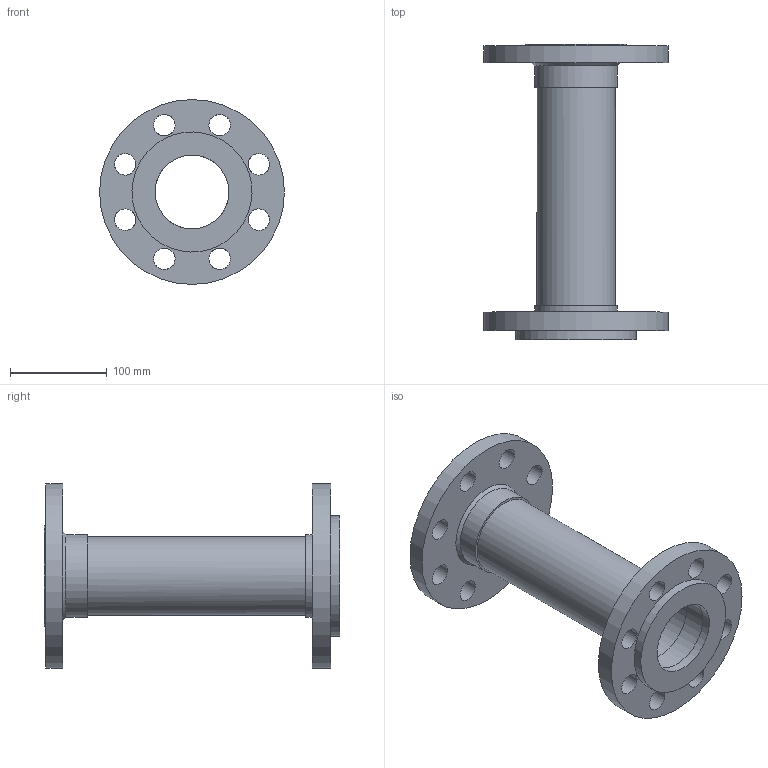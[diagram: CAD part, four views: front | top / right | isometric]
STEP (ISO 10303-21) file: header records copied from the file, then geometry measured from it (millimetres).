
FILE_DESCRIPTION(/* description */ (''),/* implementation_level */ '2;1');
FILE_NAME(/* name */ 'C:\001_Work\Designs\FFL2B-300\FFL2B-300-2.5x12.stp',/* time_stamp */ '2016-06-14T10:11:57-04:00',/* author */ ('rramoutar'),/* organization */ ('Mason Industries Inc.'),/* preprocessor_version */ 'ST-DEVELOPER v15.6',/* originating_system */ 'Autodesk Inventor 2015',/* authorisation */ '');
FILE_SCHEMA (('CONFIG_CONTROL_DESIGN'));
Length unit declared in the file: inch
Products named in the file (1): FFL2B-300-2.5x12
Bounding box: 190.5 x 304.8 x 190.5 mm (x, y, z)
Volume: 863865.7 mm3; surface area: 283514.9 mm2
Topology: 1 solids, 1 shells, 41 faces, 107 edges, 77 vertices
Faces by surface type: cylinder 27, plane 11, cone 3
Full cylindrical faces by diameter (mm): 22.225 x16, 76.2 x2, 79.756 x1, 80.569 x1, 85.331 x2, 88.9 x1, 104.775 x1, 123.825 x1, 190.5 x2
Entity records: 1133 total; most frequent: DIRECTION 198, CARTESIAN_POINT 156, EDGE_LOOP 114, ORIENTED_EDGE 114, AXIS2_PLACEMENT_3D 99, FACE_BOUND 73, CIRCLE 57, VERTEX_POINT 57
